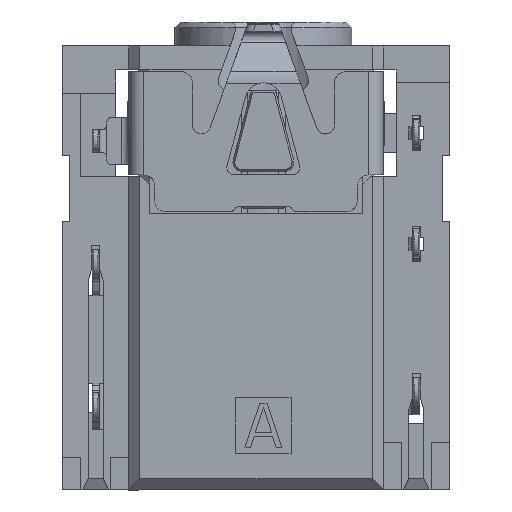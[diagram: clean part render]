
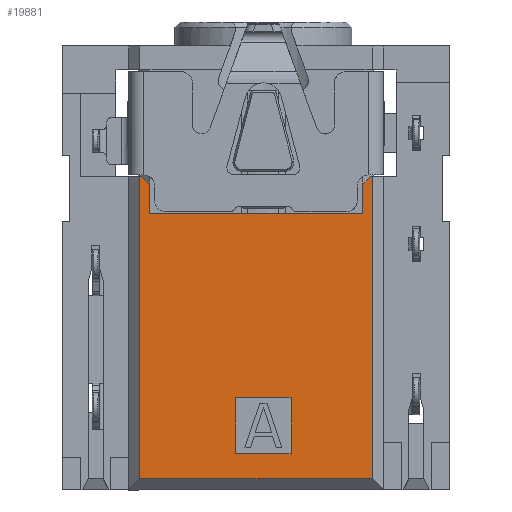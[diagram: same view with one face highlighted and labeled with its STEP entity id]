
A CAD part, front view. The second image highlights one B-rep face of the part: STEP entity #19881.
In plain terms, the highlighted planar face has unit normal (0, -1, 0).
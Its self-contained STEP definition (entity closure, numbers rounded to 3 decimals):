
#676 = DIRECTION ( 'NONE',  ( 0., 0., 1. ) ) ;
#849 = ORIENTED_EDGE ( 'NONE', *, *, #21948, .T. ) ;
#960 = VECTOR ( 'NONE', #27284, 1000. ) ;
#1313 = DIRECTION ( 'NONE',  ( 0., 0., -1. ) ) ;
#2278 = ORIENTED_EDGE ( 'NONE', *, *, #5331, .T. ) ;
#2446 = ORIENTED_EDGE ( 'NONE', *, *, #10640, .T. ) ;
#2557 = LINE ( 'NONE', #10389, #14892 ) ;
#3029 = CARTESIAN_POINT ( 'NONE',  ( 8.15, 0.598, -5.127 ) ) ;
#3442 = LINE ( 'NONE', #21532, #37980 ) ;
#3953 = AXIS2_PLACEMENT_3D ( 'NONE', #29809, #11515, #17728 ) ;
#4160 = CARTESIAN_POINT ( 'NONE',  ( 8.35, 0.598, -5.291 ) ) ;
#4691 = ORIENTED_EDGE ( 'NONE', *, *, #9273, .T. ) ;
#4740 = VERTEX_POINT ( 'NONE', #4160 ) ;
#4775 = VERTEX_POINT ( 'NONE', #7216 ) ;
#5331 = EDGE_CURVE ( 'NONE', #7410, #29365, #20640, .T. ) ;
#5483 = VERTEX_POINT ( 'NONE', #38617 ) ;
#5657 = FACE_BOUND ( 'NONE', #8578, .T. ) ;
#6545 = LINE ( 'NONE', #20734, #34496 ) ;
#6784 = ORIENTED_EDGE ( 'NONE', *, *, #37768, .T. ) ;
#7216 = CARTESIAN_POINT ( 'NONE',  ( 4.7, 0.598, -12.791 ) ) ;
#7410 = VERTEX_POINT ( 'NONE', #18405 ) ;
#8578 = EDGE_LOOP ( 'NONE', ( #6784, #33619, #2446, #4691 ) ) ;
#9273 = EDGE_CURVE ( 'NONE', #4775, #24162, #32686, .T. ) ;
#9949 = EDGE_CURVE ( 'NONE', #35776, #29365, #11310, .T. ) ;
#10389 = CARTESIAN_POINT ( 'NONE',  ( 8.526, 0.598, -11.291 ) ) ;
#10640 = EDGE_CURVE ( 'NONE', #5483, #4775, #13652, .T. ) ;
#10719 = ORIENTED_EDGE ( 'NONE', *, *, #37568, .T. ) ;
#11310 = LINE ( 'NONE', #27347, #31689 ) ;
#11313 = VERTEX_POINT ( 'NONE', #17011 ) ;
#11412 = VECTOR ( 'NONE', #26897, 1000. ) ;
#11457 = DIRECTION ( 'NONE',  ( 0., 0., -1. ) ) ;
#11470 = ORIENTED_EDGE ( 'NONE', *, *, #25529, .T. ) ;
#11515 = DIRECTION ( 'NONE',  ( 0., -1., 0. ) ) ;
#11728 = DIRECTION ( 'NONE',  ( -0.707, 0., -0.707 ) ) ;
#12348 = CARTESIAN_POINT ( 'NONE',  ( 6.2, 0.598, -11.291 ) ) ;
#13652 = LINE ( 'NONE', #35075, #39214 ) ;
#13892 = EDGE_CURVE ( 'NONE', #30999, #7410, #25610, .T. ) ;
#14648 = DIRECTION ( 'NONE',  ( -0.707, 0., 0.707 ) ) ;
#14892 = VECTOR ( 'NONE', #22543, 1000. ) ;
#15034 = CARTESIAN_POINT ( 'NONE',  ( 8.526, 0.598, -6.291 ) ) ;
#15315 = VERTEX_POINT ( 'NONE', #17789 ) ;
#16115 = CARTESIAN_POINT ( 'NONE',  ( 4.7, 0.598, -11.291 ) ) ;
#16456 = ORIENTED_EDGE ( 'NONE', *, *, #20549, .T. ) ;
#16846 = ORIENTED_EDGE ( 'NONE', *, *, #9949, .F. ) ;
#16979 = EDGE_LOOP ( 'NONE', ( #25440, #849, #16456, #27356, #10719, #11470, #34444, #30899, #2278, #16846 ) ) ;
#17011 = CARTESIAN_POINT ( 'NONE',  ( 2.35, 0.598, -5.491 ) ) ;
#17334 = LINE ( 'NONE', #35295, #28271 ) ;
#17591 = PLANE ( 'NONE',  #3953 ) ;
#17728 = DIRECTION ( 'NONE',  ( 0., 0., -1. ) ) ;
#17789 = CARTESIAN_POINT ( 'NONE',  ( 8.15, 0.598, -5.491 ) ) ;
#18405 = CARTESIAN_POINT ( 'NONE',  ( 2.1, 0.598, -5.291 ) ) ;
#18946 = VECTOR ( 'NONE', #676, 1000. ) ;
#19042 = VERTEX_POINT ( 'NONE', #21678 ) ;
#19881 = ADVANCED_FACE ( 'NONE', ( #5657, #20828 ), #17591, .T. ) ;
#20005 = CARTESIAN_POINT ( 'NONE',  ( 8.4, 0.598, -13.491 ) ) ;
#20402 = VECTOR ( 'NONE', #37214, 1000. ) ;
#20549 = EDGE_CURVE ( 'NONE', #4740, #15315, #6545, .T. ) ;
#20640 = LINE ( 'NONE', #34700, #32491 ) ;
#20734 = CARTESIAN_POINT ( 'NONE',  ( 8.35, 0.598, -5.291 ) ) ;
#20828 = FACE_OUTER_BOUND ( 'NONE', #16979, .T. ) ;
#21403 = DIRECTION ( 'NONE',  ( -1., 0., 0. ) ) ;
#21532 = CARTESIAN_POINT ( 'NONE',  ( 2.35, 0.598, -5.127 ) ) ;
#21673 = CARTESIAN_POINT ( 'NONE',  ( 2.1, 0.598, -13.491 ) ) ;
#21678 = CARTESIAN_POINT ( 'NONE',  ( 2.35, 0.598, -6.291 ) ) ;
#21948 = EDGE_CURVE ( 'NONE', #30039, #4740, #33933, .T. ) ;
#22543 = DIRECTION ( 'NONE',  ( 1., 0., 0. ) ) ;
#22918 = EDGE_CURVE ( 'NONE', #32314, #5483, #17334, .T. ) ;
#23772 = DIRECTION ( 'NONE',  ( -1., 0., 0. ) ) ;
#24162 = VERTEX_POINT ( 'NONE', #16115 ) ;
#24656 = CARTESIAN_POINT ( 'NONE',  ( 4.7, 0.598, -5.127 ) ) ;
#24952 = DIRECTION ( 'NONE',  ( 0., 0., 1. ) ) ;
#25440 = ORIENTED_EDGE ( 'NONE', *, *, #28737, .F. ) ;
#25529 = EDGE_CURVE ( 'NONE', #19042, #11313, #3442, .T. ) ;
#25610 = LINE ( 'NONE', #34443, #20402 ) ;
#26305 = VECTOR ( 'NONE', #14648, 1000. ) ;
#26478 = EDGE_CURVE ( 'NONE', #15315, #28966, #31320, .T. ) ;
#26762 = CARTESIAN_POINT ( 'NONE',  ( 8.4, 0.598, -5.121 ) ) ;
#26897 = DIRECTION ( 'NONE',  ( 0., 0., -1. ) ) ;
#27088 = DIRECTION ( 'NONE',  ( -1., 0., 0. ) ) ;
#27284 = DIRECTION ( 'NONE',  ( 0., 0., -1. ) ) ;
#27347 = CARTESIAN_POINT ( 'NONE',  ( 1.662, 0.598, -13.491 ) ) ;
#27356 = ORIENTED_EDGE ( 'NONE', *, *, #26478, .T. ) ;
#28212 = VECTOR ( 'NONE', #21403, 1000. ) ;
#28271 = VECTOR ( 'NONE', #11457, 1000. ) ;
#28737 = EDGE_CURVE ( 'NONE', #30039, #35776, #33221, .T. ) ;
#28932 = CARTESIAN_POINT ( 'NONE',  ( 2.15, 0.598, -5.291 ) ) ;
#28966 = VERTEX_POINT ( 'NONE', #34143 ) ;
#28990 = DIRECTION ( 'NONE',  ( -1., 0., 0. ) ) ;
#29149 = LINE ( 'NONE', #29757, #26305 ) ;
#29365 = VERTEX_POINT ( 'NONE', #21673 ) ;
#29757 = CARTESIAN_POINT ( 'NONE',  ( 2.35, 0.598, -5.491 ) ) ;
#29809 = CARTESIAN_POINT ( 'NONE',  ( 8.526, 0.598, -5.127 ) ) ;
#30039 = VERTEX_POINT ( 'NONE', #38127 ) ;
#30899 = ORIENTED_EDGE ( 'NONE', *, *, #13892, .T. ) ;
#30999 = VERTEX_POINT ( 'NONE', #28932 ) ;
#31320 = LINE ( 'NONE', #3029, #960 ) ;
#31689 = VECTOR ( 'NONE', #27088, 1000. ) ;
#32314 = VERTEX_POINT ( 'NONE', #12348 ) ;
#32491 = VECTOR ( 'NONE', #1313, 1000. ) ;
#32686 = LINE ( 'NONE', #24656, #18946 ) ;
#33221 = LINE ( 'NONE', #26762, #11412 ) ;
#33619 = ORIENTED_EDGE ( 'NONE', *, *, #22918, .T. ) ;
#33933 = LINE ( 'NONE', #38847, #38650 ) ;
#34143 = CARTESIAN_POINT ( 'NONE',  ( 8.15, 0.598, -6.291 ) ) ;
#34443 = CARTESIAN_POINT ( 'NONE',  ( 8.526, 0.598, -5.291 ) ) ;
#34444 = ORIENTED_EDGE ( 'NONE', *, *, #37473, .T. ) ;
#34496 = VECTOR ( 'NONE', #11728, 1000. ) ;
#34700 = CARTESIAN_POINT ( 'NONE',  ( 2.1, 0.598, -5.127 ) ) ;
#35075 = CARTESIAN_POINT ( 'NONE',  ( 8.526, 0.598, -12.791 ) ) ;
#35295 = CARTESIAN_POINT ( 'NONE',  ( 6.2, 0.598, -5.127 ) ) ;
#35776 = VERTEX_POINT ( 'NONE', #20005 ) ;
#36236 = LINE ( 'NONE', #15034, #28212 ) ;
#37214 = DIRECTION ( 'NONE',  ( -1., 0., 0. ) ) ;
#37473 = EDGE_CURVE ( 'NONE', #11313, #30999, #29149, .T. ) ;
#37568 = EDGE_CURVE ( 'NONE', #28966, #19042, #36236, .T. ) ;
#37768 = EDGE_CURVE ( 'NONE', #24162, #32314, #2557, .T. ) ;
#37980 = VECTOR ( 'NONE', #24952, 1000. ) ;
#38127 = CARTESIAN_POINT ( 'NONE',  ( 8.4, 0.598, -5.291 ) ) ;
#38617 = CARTESIAN_POINT ( 'NONE',  ( 6.2, 0.598, -12.791 ) ) ;
#38650 = VECTOR ( 'NONE', #23772, 1000. ) ;
#38847 = CARTESIAN_POINT ( 'NONE',  ( 8.328, 0.598, -5.291 ) ) ;
#39214 = VECTOR ( 'NONE', #28990, 1000. ) ;
